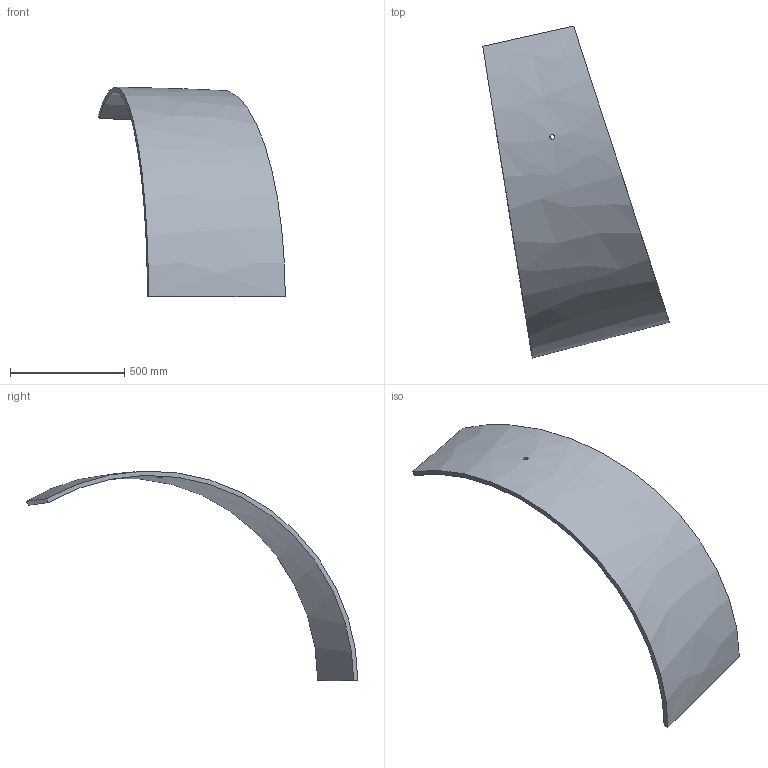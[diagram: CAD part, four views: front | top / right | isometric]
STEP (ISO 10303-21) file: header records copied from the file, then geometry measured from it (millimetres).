
FILE_DESCRIPTION (( 'STEP AP214' ), '1' );
FILE_NAME ('Section 12-C.STEP', '2025-01-09T19:43:25', ( '' ), ( '' ), 'SwSTEP 2.0', 'SolidWorks 2024', '' );
FILE_SCHEMA (( 'AUTOMOTIVE_DESIGN' ));
Length unit declared in the file: inch
Products named in the file (1): Section 12-C
Bounding box: 816.95 x 1452.52 x 918.67 mm (x, y, z)
Volume: 19308731.1 mm3; surface area: 2119773.3 mm2
Topology: 1 solids, 1 shells, 7 faces, 15 edges, 10 vertices
Faces by surface type: bspline 6, cylinder 1
Full cylindrical faces by diameter (mm): 19.447 x1
Entity records: 521 total; most frequent: CARTESIAN_POINT 384, ORIENTED_EDGE 28, EDGE_CURVE 14, B_SPLINE_CURVE_WITH_KNOTS 14, VERTEX_POINT 10, EDGE_LOOP 10, FACE_OUTER_BOUND 8, ADVANCED_FACE 7
